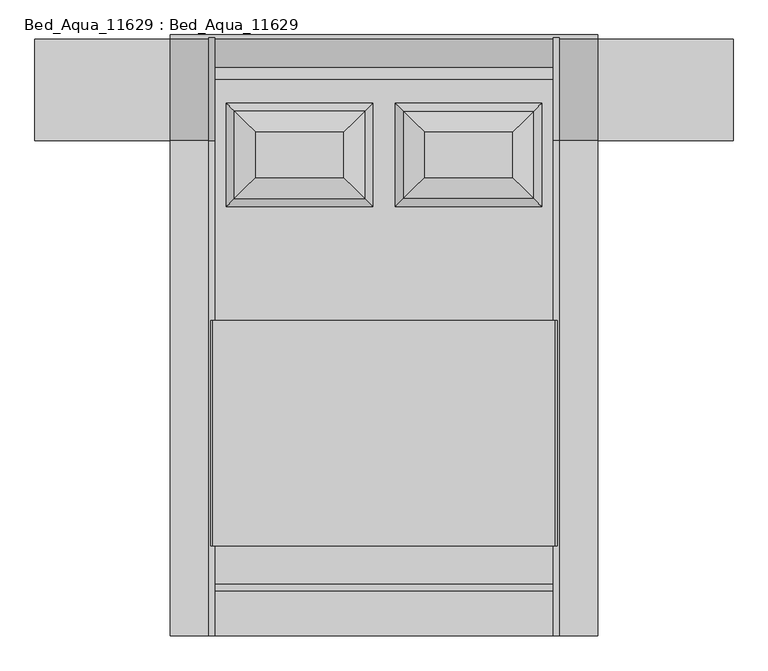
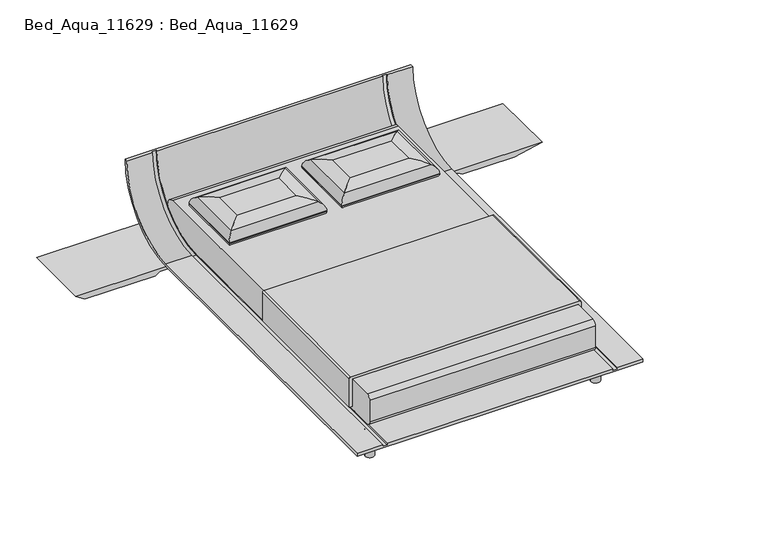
"""IFC4 building model written with IfcOpenShell, lengths in millimetres: furniture geometry, Bed_Aqua_11629 : Bed_Aqua_11629."""

from ifc_helpers import new_model, si_unit, point, frame, frame_2d, origin, origin_with_axes, place, context, project, spatial, polyline, circle_curve, ellipse_curve, trimmed, segment, composite_curve, outline, extrude, source, transform, mapped, element, save
from ifc_brep_helpers import plane_surface, cylinder_surface, revolved_surface, advanced_brep


def bed_aqua_11629_bed_aqua_11629_56e6aff4(model_context):
    return source(origin(), model_context, "Body", "SolidModel", [
        extrude(outline(composite_curve([segment(trimmed(circle_curve(frame_2d((750.0, 850.0)), 30.0), [point((720.0, 850.0))], [point((780.0, 850.0))], False, "CARTESIAN"), True, "CONTINUOUS"), segment(trimmed(circle_curve(frame_2d((750.0, 850.0)), 30.0), [point((780.0, 850.0))], [point((720.0, 850.0))], False, "CARTESIAN"), True, "CONTINUOUS")], self_intersect=False)), origin_with_axes(), (0.0, 0.0, 1.0), 180.0),
        extrude(outline(composite_curve([segment(trimmed(circle_curve(frame_2d((-750.0, 850.0)), 30.0), [point((-780.0, 850.0))], [point((-720.0, 850.0))], False, "CARTESIAN"), True, "CONTINUOUS"), segment(trimmed(circle_curve(frame_2d((-750.0, 850.0)), 30.0), [point((-720.0, 850.0))], [point((-780.0, 850.0))], False, "CARTESIAN"), True, "CONTINUOUS")], self_intersect=False)), origin_with_axes(), (0.0, 0.0, 1.0), 180.0),
        extrude(outline(polyline([(180.0, 1550.0), (180.0, -1550.0), (140.0, -1490.0), (140.0, -1020.0), (160.0, -990.0), (160.0, 990.0), (140.0, 1020.0), (140.0, 1365.0), (180.0, 1550.0)])), frame((0.0, 1000.0, 0.0), z_axis=(0.0, 1.0, 0.0), x_axis=(0.0, 0.0, 1.0)), (0.0, 0.0, 1.0), 450.0),
        advanced_brep(
        [(680.0, 726.8384414, 410.0), (70.0, 726.8384414, 410.0), (70.0, 1146.8384414, 410.0), (680.0, 1146.8384414, 410.0), (180.0, 836.8384414, 510.0), (570.0, 836.8384414, 510.0), (570.0, 1036.8384414, 510.0), (180.0, 1036.8384414, 510.0), (700.0, 706.8384414, 430.0), (50.0, 706.8384414, 430.0), (700.0, 706.8384414, 435.3479828), (50.0, 706.8384414, 435.3479828), (664.0634616, 742.7749798, 490.3111506), (85.9365384, 742.7749798, 490.3111506), (50.0, 1166.8384414, 430.0), (50.0, 1166.8384414, 435.3479828), (85.9365384, 1130.901903, 490.3111506), (700.0, 1166.8384414, 430.0), (700.0, 1166.8384414, 435.3479828), (664.0634616, 1130.901903, 490.3111506)],
        [
            (0, 1),
            (1, 2),
            (2, 3),
            (3, 0),
            (4, 5),
            (5, 6),
            (6, 7),
            (7, 4),
            (8, 9),
            (9, 1, ellipse_curve(frame((70.0, 726.8384414, 430.0), z_axis=(0.7071067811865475, -0.7071067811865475, 0.0), x_axis=(-0.7071067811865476, -0.7071067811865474, 0.0)), 28.2842712, 20.0)),
            (0, 8, ellipse_curve(frame((680.0, 726.8384414, 430.0), z_axis=(-0.7071067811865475, -0.7071067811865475, 0.0), x_axis=(-0.7071067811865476, 0.7071067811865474, 0.0)), 28.2842712, 20.0)),
            (8, 10),
            (10, 11),
            (11, 9),
            (10, 12, ellipse_curve(frame((640.0, 766.8384414, 435.3479828), z_axis=(-0.7071067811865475, -0.7071067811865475, 0.0), x_axis=(-0.7071067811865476, 0.7071067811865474, 0.0)), 84.8528137, 60.0)),
            (12, 13),
            (13, 11, ellipse_curve(frame((110.0, 766.8384414, 435.3479828), z_axis=(0.7071067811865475, -0.7071067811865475, 0.0), x_axis=(-0.7071067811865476, -0.7071067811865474, 0.0)), 84.8528137, 60.0)),
            (12, 5, ellipse_curve(frame((570.0, 836.8384414, 275.4615207), z_axis=(-0.7071067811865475, -0.7071067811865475, 0.0), x_axis=(-0.7071067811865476, 0.7071067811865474, 0.0)), 331.6874983, 234.5384793)),
            (4, 13, ellipse_curve(frame((180.0, 836.8384414, 275.4615207), z_axis=(0.7071067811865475, -0.7071067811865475, 0.0), x_axis=(-0.7071067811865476, -0.7071067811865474, 0.0)), 331.6874983, 234.5384793)),
            (9, 14),
            (14, 2, ellipse_curve(frame((70.0, 1146.8384414, 430.0), z_axis=(-0.7071067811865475, -0.7071067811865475, 0.0), x_axis=(-0.7071067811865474, 0.7071067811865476, 0.0)), 28.2842712, 20.0)),
            (11, 15),
            (15, 14),
            (13, 16),
            (16, 15, ellipse_curve(frame((110.0, 1106.8384414, 435.3479828), z_axis=(-0.7071067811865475, -0.7071067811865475, 0.0), x_axis=(-0.7071067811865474, 0.7071067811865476, 0.0)), 84.8528137, 60.0)),
            (7, 16, ellipse_curve(frame((180.0, 1036.8384414, 275.4615207), z_axis=(-0.7071067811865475, -0.7071067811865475, 0.0), x_axis=(-0.7071067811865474, 0.7071067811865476, 0.0)), 331.6874983, 234.5384793)),
            (14, 17),
            (17, 3, ellipse_curve(frame((680.0, 1146.8384414, 430.0), z_axis=(-0.7071067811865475, 0.7071067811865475, 0.0), x_axis=(0.7071067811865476, 0.7071067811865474, 0.0)), 28.2842712, 20.0)),
            (15, 18),
            (18, 17),
            (16, 19),
            (19, 18, ellipse_curve(frame((640.0, 1106.8384414, 435.3479828), z_axis=(-0.7071067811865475, 0.7071067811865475, 0.0), x_axis=(0.7071067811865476, 0.7071067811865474, 0.0)), 84.8528137, 60.0)),
            (6, 19, ellipse_curve(frame((570.0, 1036.8384414, 275.4615207), z_axis=(-0.7071067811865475, 0.7071067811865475, 0.0), x_axis=(0.7071067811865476, 0.7071067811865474, 0.0)), 331.6874983, 234.5384793)),
            (17, 8),
            (18, 10),
            (19, 12),
        ],
        [
            plane_surface(frame((720.0, 686.8384414, 410.0), z_axis=(0.0, 0.0, -1.0), x_axis=(-1.0, 0.0, 0.0))),
            plane_surface(frame((720.0, 1186.8384414, 510.0), z_axis=(0.0, 0.0, 1.0), x_axis=(-1.0, 0.0, 0.0))),
            cylinder_surface(frame((720.0, 726.8384414, 430.0), z_axis=(-1.0, 0.0, 0.0), x_axis=(0.0, -1.0, 0.0)), 20.0),
            plane_surface(frame((700.0, 706.8384414, 430.0), z_axis=(0.0, -1.0, 0.0), x_axis=(-1.0, 0.0, 0.0))),
            cylinder_surface(frame((720.0, 766.8384414, 435.3479828), z_axis=(-1.0, 0.0, 0.0), x_axis=(0.0, -1.0, 0.0)), 60.0),
            cylinder_surface(frame((720.0, 836.8384414, 275.4615207), z_axis=(-1.0, 0.0, 0.0), x_axis=(0.0, -1.0, 0.0)), 234.5384793),
            cylinder_surface(frame((70.0, 686.8384414, 430.0), z_axis=(0.0, 1.0, 0.0), x_axis=(-1.0, 0.0, 0.0)), 20.0),
            plane_surface(frame((50.0, 706.8384414, 430.0), z_axis=(-1.0, 0.0, 0.0), x_axis=(0.0, 1.0, 0.0))),
            cylinder_surface(frame((110.0, 686.8384414, 435.3479828), z_axis=(0.0, 1.0, 0.0), x_axis=(-1.0, 0.0, 0.0)), 60.0),
            cylinder_surface(frame((180.0, 686.8384414, 275.4615207), z_axis=(0.0, 1.0, 0.0), x_axis=(-1.0, 0.0, 0.0)), 234.5384793),
            cylinder_surface(frame((30.0, 1146.8384414, 430.0), z_axis=(1.0, 0.0, 0.0), x_axis=(0.0, 1.0, 0.0)), 20.0),
            plane_surface(frame((50.0, 1166.8384414, 430.0), z_axis=(0.0, 1.0, 0.0), x_axis=(1.0, 0.0, 0.0))),
            cylinder_surface(frame((30.0, 1106.8384414, 435.3479828), z_axis=(1.0, 0.0, 0.0), x_axis=(0.0, 1.0, 0.0)), 60.0),
            cylinder_surface(frame((30.0, 1036.8384414, 275.4615207), z_axis=(1.0, 0.0, 0.0), x_axis=(0.0, 1.0, 0.0)), 234.5384793),
            cylinder_surface(frame((680.0, 1186.8384414, 430.0), z_axis=(0.0, -1.0, 0.0), x_axis=(1.0, 0.0, 0.0)), 20.0),
            plane_surface(frame((700.0, 1166.8384414, 430.0), z_axis=(1.0, 0.0, 0.0), x_axis=(0.0, -1.0, 0.0))),
            cylinder_surface(frame((640.0, 1186.8384414, 435.3479828), z_axis=(0.0, -1.0, 0.0), x_axis=(1.0, 0.0, 0.0)), 60.0),
            cylinder_surface(frame((570.0, 1186.8384414, 275.4615207), z_axis=(0.0, -1.0, 0.0), x_axis=(1.0, 0.0, 0.0)), 234.5384793),
        ],
        [
            (0, [[1, 2, 3, 4]]),
            (1, [[5, 6, 7, 8]]),
            (2, [[9, 10, -1, 11]]),
            (3, [[-9, 12, 13, 14]]),
            (4, [[-13, 15, 16, 17]]),
            (5, [[-16, 18, -5, 19]]),
            (6, [[-10, 20, 21, -2]]),
            (7, [[-14, 22, 23, -20]]),
            (8, [[-17, 24, 25, -22]]),
            (9, [[-19, -8, 26, -24]]),
            (10, [[-21, 27, 28, -3]]),
            (11, [[-23, 29, 30, -27]]),
            (12, [[-25, 31, 32, -29]]),
            (13, [[-26, -7, 33, -31]]),
            (14, [[-11, -4, -28, 34]]),
            (15, [[-12, -34, -30, 35]]),
            (16, [[-15, -35, -32, 36]]),
            (17, [[-18, -36, -33, -6]]),
        ],
    ),
        extrude(outline(composite_curve([segment(trimmed(circle_curve(frame_2d((1271.1088342, 357.4773785)), 52.5226215), [point((1271.1088342, 410.0))], [point((1296.5252874, 311.514027))], False, "CARTESIAN"), True, "CONTINUOUS"), segment(trimmed(circle_curve(frame_2d((1000.0, 650.0)), 450.0), [point((1296.5252874, 311.514027))], [point((1000.0, 200.0))], False, "CARTESIAN"), True, "CONTINUOUS"), segment(polyline([(1000.0, 200.0), (-970.0, 200.0)]), True, "CONTINUOUS"), segment(trimmed(circle_curve(frame_2d((-970.0, 230.0)), 30.0), [point((-970.0, 200.0))], [point((-1000.0, 230.0))], False, "CARTESIAN"), True, "CONTINUOUS"), segment(polyline([(-1000.0, 230.0), (-1000.0, 380.0)]), True, "CONTINUOUS"), segment(trimmed(circle_curve(frame_2d((-970.0, 380.0)), 30.0), [point((-1000.0, 380.0))], [point((-970.0, 410.0))], False, "CARTESIAN"), True, "CONTINUOUS"), segment(polyline([(-970.0, 410.0), (1271.1088342, 410.0)]), True, "CONTINUOUS")], self_intersect=False)), frame((-750.0, 0.0, 0.0), z_axis=(1.0, 0.0, 0.0), x_axis=(0.0, 1.0, 0.0)), (0.0, 0.0, 1.0), 1500.0),
        advanced_brep(
        [(-70.0, 726.8384414, 410.0), (-680.0, 726.8384414, 410.0), (-680.0, 1146.8384414, 410.0), (-70.0, 1146.8384414, 410.0), (-570.0, 836.8384414, 510.0), (-180.0, 836.8384414, 510.0), (-180.0, 1036.8384414, 510.0), (-570.0, 1036.8384414, 510.0), (-50.0, 706.8384414, 430.0), (-700.0, 706.8384414, 430.0), (-664.0634616, 742.7749798, 490.3111506), (-85.9365384, 742.7749798, 490.3111506), (-700.0, 1166.8384414, 430.0), (-664.0634616, 1130.901903, 490.3111506), (-50.0, 1166.8384414, 430.0), (-85.9365384, 1130.901903, 490.3111506), (-50.0, 706.8384414, 435.3479828), (-700.0, 706.8384414, 435.3479828), (-700.0, 1166.8384414, 435.3479828), (-50.0, 1166.8384414, 435.3479828)],
        [
            (0, 1),
            (1, 2),
            (2, 3),
            (3, 0),
            (4, 5),
            (5, 6),
            (6, 7),
            (7, 4),
            (8, 9),
            (9, 1, ellipse_curve(frame((-680.0, 726.8384414, 430.0), z_axis=(0.7071067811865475, -0.7071067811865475, 0.0), x_axis=(-0.7071067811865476, -0.7071067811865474, 0.0)), 28.2842712, 20.0)),
            (0, 8, ellipse_curve(frame((-70.0, 726.8384414, 430.0), z_axis=(-0.7071067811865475, -0.7071067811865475, 0.0), x_axis=(-0.7071067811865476, 0.7071067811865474, 0.0)), 28.2842712, 20.0)),
            (4, 10, ellipse_curve(frame((-570.0, 836.8384414, 275.4615207), z_axis=(0.7071067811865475, -0.7071067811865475, 0.0), x_axis=(-0.7071067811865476, -0.7071067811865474, 0.0)), 331.6874983, 234.5384793)),
            (10, 11),
            (11, 5, ellipse_curve(frame((-180.0, 836.8384414, 275.4615207), z_axis=(-0.7071067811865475, -0.7071067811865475, 0.0), x_axis=(-0.7071067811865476, 0.7071067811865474, 0.0)), 331.6874983, 234.5384793)),
            (9, 12),
            (12, 2, ellipse_curve(frame((-680.0, 1146.8384414, 430.0), z_axis=(-0.7071067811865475, -0.7071067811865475, 0.0), x_axis=(-0.7071067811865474, 0.7071067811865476, 0.0)), 28.2842712, 20.0)),
            (7, 13, ellipse_curve(frame((-570.0, 1036.8384414, 275.4615207), z_axis=(-0.7071067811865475, -0.7071067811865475, 0.0), x_axis=(-0.7071067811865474, 0.7071067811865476, 0.0)), 331.6874983, 234.5384793)),
            (13, 10),
            (12, 14),
            (14, 3, ellipse_curve(frame((-70.0, 1146.8384414, 430.0), z_axis=(-0.7071067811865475, 0.7071067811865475, 0.0), x_axis=(0.7071067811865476, 0.7071067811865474, 0.0)), 28.2842712, 20.0)),
            (6, 15, ellipse_curve(frame((-180.0, 1036.8384414, 275.4615207), z_axis=(-0.7071067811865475, 0.7071067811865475, 0.0), x_axis=(0.7071067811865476, 0.7071067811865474, 0.0)), 331.6874983, 234.5384793)),
            (15, 13),
            (14, 8),
            (11, 15),
            (8, 16),
            (16, 17),
            (17, 9),
            (10, 17, ellipse_curve(frame((-640.0, 766.8384414, 435.3479828), z_axis=(0.7071067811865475, -0.7071067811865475, 0.0), x_axis=(-0.7071067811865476, -0.7071067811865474, 0.0)), 84.8528137, 60.0)),
            (16, 11, ellipse_curve(frame((-110.0, 766.8384414, 435.3479828), z_axis=(-0.7071067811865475, -0.7071067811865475, 0.0), x_axis=(-0.7071067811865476, 0.7071067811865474, 0.0)), 84.8528137, 60.0)),
            (17, 18),
            (18, 12),
            (13, 18, ellipse_curve(frame((-640.0, 1106.8384414, 435.3479828), z_axis=(-0.7071067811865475, -0.7071067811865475, 0.0), x_axis=(-0.7071067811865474, 0.7071067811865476, 0.0)), 84.8528137, 60.0)),
            (18, 19),
            (19, 14),
            (15, 19, ellipse_curve(frame((-110.0, 1106.8384414, 435.3479828), z_axis=(-0.7071067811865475, 0.7071067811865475, 0.0), x_axis=(0.7071067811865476, 0.7071067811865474, 0.0)), 84.8528137, 60.0)),
            (19, 16),
        ],
        [
            plane_surface(frame((-30.0, 686.8384414, 410.0), z_axis=(0.0, 0.0, -1.0), x_axis=(-1.0, 0.0, 0.0))),
            plane_surface(frame((-30.0, 1186.8384414, 510.0), z_axis=(0.0, 0.0, 1.0), x_axis=(-1.0, 0.0, 0.0))),
            cylinder_surface(frame((-30.0, 726.8384414, 430.0), z_axis=(-1.0, 0.0, 0.0), x_axis=(0.0, -1.0, 0.0)), 20.0),
            cylinder_surface(frame((-30.0, 836.8384414, 275.4615207), z_axis=(-1.0, 0.0, 0.0), x_axis=(0.0, -1.0, 0.0)), 234.5384793),
            cylinder_surface(frame((-680.0, 686.8384414, 430.0), z_axis=(0.0, 1.0, 0.0), x_axis=(-1.0, 0.0, 0.0)), 20.0),
            cylinder_surface(frame((-570.0, 686.8384414, 275.4615207), z_axis=(0.0, 1.0, 0.0), x_axis=(-1.0, 0.0, 0.0)), 234.5384793),
            cylinder_surface(frame((-720.0, 1146.8384414, 430.0), z_axis=(1.0, 0.0, 0.0), x_axis=(0.0, 1.0, 0.0)), 20.0),
            cylinder_surface(frame((-720.0, 1036.8384414, 275.4615207), z_axis=(1.0, 0.0, 0.0), x_axis=(0.0, 1.0, 0.0)), 234.5384793),
            cylinder_surface(frame((-70.0, 1186.8384414, 430.0), z_axis=(0.0, -1.0, 0.0), x_axis=(1.0, 0.0, 0.0)), 20.0),
            cylinder_surface(frame((-180.0, 1186.8384414, 275.4615207), z_axis=(0.0, -1.0, 0.0), x_axis=(1.0, 0.0, 0.0)), 234.5384793),
            plane_surface(frame((-50.0, 706.8384414, 430.0), z_axis=(0.0, -1.0, 0.0), x_axis=(-1.0, 0.0, 0.0))),
            cylinder_surface(frame((-30.0, 766.8384414, 435.3479828), z_axis=(-1.0, 0.0, 0.0), x_axis=(0.0, -1.0, 0.0)), 60.0),
            plane_surface(frame((-700.0, 706.8384414, 430.0), z_axis=(-1.0, 0.0, 0.0), x_axis=(0.0, 1.0, 0.0))),
            cylinder_surface(frame((-640.0, 686.8384414, 435.3479828), z_axis=(0.0, 1.0, 0.0), x_axis=(-1.0, 0.0, 0.0)), 60.0),
            plane_surface(frame((-700.0, 1166.8384414, 430.0), z_axis=(0.0, 1.0, 0.0), x_axis=(1.0, 0.0, 0.0))),
            cylinder_surface(frame((-720.0, 1106.8384414, 435.3479828), z_axis=(1.0, 0.0, 0.0), x_axis=(0.0, 1.0, 0.0)), 60.0),
            plane_surface(frame((-50.0, 1166.8384414, 430.0), z_axis=(1.0, 0.0, 0.0), x_axis=(0.0, -1.0, 0.0))),
            cylinder_surface(frame((-110.0, 1186.8384414, 435.3479828), z_axis=(0.0, -1.0, 0.0), x_axis=(1.0, 0.0, 0.0)), 60.0),
        ],
        [
            (0, [[1, 2, 3, 4]]),
            (1, [[5, 6, 7, 8]]),
            (2, [[9, 10, -1, 11]]),
            (3, [[12, 13, 14, -5]]),
            (4, [[-10, 15, 16, -2]]),
            (5, [[-12, -8, 17, 18]]),
            (6, [[-16, 19, 20, -3]]),
            (7, [[-17, -7, 21, 22]]),
            (8, [[-11, -4, -20, 23]]),
            (9, [[-14, 24, -21, -6]]),
            (10, [[-9, 25, 26, 27]]),
            (11, [[-13, 28, -26, 29]]),
            (12, [[-15, -27, 30, 31]]),
            (13, [[-18, 32, -30, -28]]),
            (14, [[-19, -31, 33, 34]]),
            (15, [[-22, 35, -33, -32]]),
            (16, [[-23, -34, 36, -25]]),
            (17, [[-24, -29, -36, -35]]),
        ],
    ),
        extrude(outline(composite_curve([segment(polyline([(410.0, -750.0), (410.0, 750.0), (220.0, 750.0), (220.0, 770.0), (420.0, 770.0)]), True, "CONTINUOUS"), segment(trimmed(circle_curve(frame_2d((420.0, 760.0)), 10.0), [point((420.0, 770.0))], [point((430.0, 760.0))], False, "CARTESIAN"), True, "CONTINUOUS"), segment(polyline([(430.0, 760.0), (430.0, -760.0)]), True, "CONTINUOUS"), segment(trimmed(circle_curve(frame_2d((420.0, -760.0)), 10.0), [point((430.0, -760.0))], [point((420.0, -770.0))], False, "CARTESIAN"), True, "CONTINUOUS"), segment(polyline([(420.0, -770.0), (220.0, -770.0), (220.0, -750.0), (410.0, -750.0)]), True, "CONTINUOUS")], self_intersect=False)), frame((0.0, -800.0, 0.0), z_axis=(0.0, 1.0, 0.0), x_axis=(0.0, 0.0, 1.0)), (0.0, 0.0, 1.0), 1000.0),
        extrude(outline(composite_curve([segment(trimmed(circle_curve(frame_2d((750.0, -1000.0)), 30.0), [point((720.0, -1000.0))], [point((780.0, -1000.0))], False, "CARTESIAN"), True, "CONTINUOUS"), segment(trimmed(circle_curve(frame_2d((750.0, -1000.0)), 30.0), [point((780.0, -1000.0))], [point((720.0, -1000.0))], False, "CARTESIAN"), True, "CONTINUOUS")], self_intersect=False)), origin_with_axes(), (0.0, 0.0, 1.0), 180.0),
        extrude(outline(composite_curve([segment(trimmed(circle_curve(frame_2d((-750.0, -1000.0)), 30.0), [point((-780.0, -1000.0))], [point((-720.0, -1000.0))], False, "CARTESIAN"), True, "CONTINUOUS"), segment(trimmed(circle_curve(frame_2d((-750.0, -1000.0)), 30.0), [point((-720.0, -1000.0))], [point((-780.0, -1000.0))], False, "CARTESIAN"), True, "CONTINUOUS")], self_intersect=False)), origin_with_axes(), (0.0, 0.0, 1.0), 180.0),
        advanced_brep(
        [(950.0, 1000.0, 200.0), (950.0, -1200.0, 200.0), (950.0, -1200.0, 180.0), (950.0, 1000.0, 180.0), (950.0, 1470.0, 650.0), (950.0, 1450.0, 650.0), (-950.0, 1000.0, 200.0), (-950.0, 1450.0, 650.0), (-950.0, 1470.0, 650.0), (-950.0, 1000.0, 180.0), (-950.0, -1200.0, 180.0), (-950.0, -1200.0, 200.0), (780.0, 1000.0, 200.0), (780.0, -1200.0, 200.0), (-780.0, -1200.0, 200.0), (-780.0, 1000.0, 200.0), (-750.0, 1000.0, 200.0), (-750.0, -1200.0, 200.0), (750.0, -1200.0, 200.0), (750.0, 1000.0, 200.0), (780.0, -1200.0, 190.0), (750.0, -1200.0, 190.0), (-750.0, -1200.0, 190.0), (-780.0, -1200.0, 190.0), (-780.0, 1450.0, 650.0), (-780.0, 1460.0, 650.0), (-750.0, 1460.0, 650.0), (-750.0, 1450.0, 650.0), (750.0, 1450.0, 650.0), (750.0, 1460.0, 650.0), (780.0, 1460.0, 650.0), (780.0, 1450.0, 650.0), (-750.0, 1000.0, 190.0), (-780.0, 1000.0, 190.0), (750.0, 1000.0, 190.0), (780.0, 1000.0, 190.0)],
        [
            (0, 1),
            (1, 2),
            (2, 3),
            (3, 4, circle_curve(frame((950.0, 1000.0, 650.0), z_axis=(1.0, 0.0, 0.0), x_axis=(0.0, 1.0, 0.0)), 470.0)),
            (4, 5),
            (5, 0, circle_curve(frame((950.0, 1000.0, 650.0), z_axis=(-1.0, 0.0, 0.0), x_axis=(0.0, 1.0, 0.0)), 450.0)),
            (6, 7, circle_curve(frame((-950.0, 1000.0, 650.0), z_axis=(1.0, 0.0, 0.0), x_axis=(0.0, 1.0, 0.0)), 450.0)),
            (7, 8),
            (8, 9, circle_curve(frame((-950.0, 1000.0, 650.0), z_axis=(-1.0, 0.0, 0.0), x_axis=(0.0, 1.0, 0.0)), 470.0)),
            (9, 10),
            (10, 11),
            (11, 6),
            (0, 12),
            (12, 13),
            (13, 1),
            (11, 14),
            (14, 15),
            (15, 6),
            (16, 17),
            (17, 18),
            (18, 19),
            (19, 16),
            (13, 20),
            (20, 21),
            (21, 18),
            (17, 22),
            (22, 23),
            (23, 14),
            (10, 2),
            (9, 3),
            (8, 4),
            (7, 24),
            (24, 25),
            (25, 26),
            (26, 27),
            (27, 28),
            (28, 29),
            (29, 30),
            (30, 31),
            (31, 5),
            (31, 12, circle_curve(frame((780.0, 1000.0, 650.0), z_axis=(-1.0, 0.0, 0.0), x_axis=(0.0, 1.0, 0.0)), 450.0)),
            (15, 24, circle_curve(frame((-780.0, 1000.0, 650.0), z_axis=(1.0, 0.0, 0.0), x_axis=(0.0, 1.0, 0.0)), 450.0)),
            (27, 16, circle_curve(frame((-750.0, 1000.0, 650.0), z_axis=(-1.0, 0.0, 0.0), x_axis=(0.0, 1.0, 0.0)), 450.0)),
            (19, 28, circle_curve(frame((750.0, 1000.0, 650.0), z_axis=(1.0, 0.0, 0.0), x_axis=(0.0, 1.0, 0.0)), 450.0)),
            (26, 32, circle_curve(frame((-750.0, 1000.0, 650.0), z_axis=(-1.0, 0.0, 0.0), x_axis=(0.0, 1.0, 0.0)), 460.0)),
            (32, 22),
            (25, 33, circle_curve(frame((-780.0, 1000.0, 650.0), z_axis=(-1.0, 0.0, 0.0), x_axis=(0.0, 1.0, 0.0)), 460.0)),
            (33, 32),
            (23, 33),
            (34, 29, circle_curve(frame((750.0, 1000.0, 650.0), z_axis=(1.0, 0.0, 0.0), x_axis=(0.0, 0.0, -1.0)), 460.0)),
            (21, 34),
            (35, 34),
            (20, 35),
            (30, 35, circle_curve(frame((780.0, 1000.0, 650.0), z_axis=(-1.0, 0.0, 0.0), x_axis=(0.0, 0.0, -1.0)), 460.0)),
        ],
        [
            plane_surface(frame((950.0, -1200.0, 200.0), z_axis=(1.0, 0.0, 0.0), x_axis=(0.0, -1.0, 0.0))),
            plane_surface(frame((-950.0, -1200.0, 200.0), z_axis=(-1.0, 0.0, 0.0), x_axis=(0.0, 1.0, 0.0))),
            plane_surface(frame((950.0, 1000.0, 200.0), z_axis=(0.0, 0.0, 1.0), x_axis=(-1.0, 0.0, 0.0))),
            plane_surface(frame((950.0, -1200.0, 200.0), z_axis=(0.0, -1.0, 0.0), x_axis=(-1.0, 0.0, 0.0))),
            plane_surface(frame((950.0, -1200.0, 180.0), z_axis=(0.0, 0.0, -1.0), x_axis=(-1.0, 0.0, 0.0))),
            cylinder_surface(frame((-950.0, 1000.0, 650.0), z_axis=(1.0, 0.0, 0.0), x_axis=(0.0, 1.0, 0.0)), 470.0),
            plane_surface(frame((950.0, 1470.0, 650.0), z_axis=(0.0, 0.0, 1.0), x_axis=(-1.0, 0.0, 0.0))),
            revolved_surface(polyline([(780.0, 1450.0, 650.0), (950.0, 1450.0, 650.0)]), (-950.0, 1000.0, 650.0), (-1.0, 0.0, 0.0)),
            revolved_surface(polyline([(-950.0, 1450.0, 650.0), (-780.0, 1450.0, 650.0)]), (-950.0, 1000.0, 650.0), (-1.0, 0.0, 0.0)),
            revolved_surface(polyline([(-750.0, 1450.0, 650.0), (750.0, 1450.0, 650.0)]), (-950.0, 1000.0, 650.0), (-1.0, 0.0, 0.0)),
            plane_surface(frame((-750.0, 1000.0, 650.0), z_axis=(-1.0, 0.0, 0.0), x_axis=(0.0, 1.0, 0.0))),
            revolved_surface(polyline([(-780.0, 1460.0, 650.0), (-750.0, 1460.0, 650.0)]), (-750.0, 1000.0, 650.0), (-1.0, 0.0, 0.0)),
            plane_surface(frame((-780.0, 1000.0, 650.0), z_axis=(1.0, 0.0, 0.0), x_axis=(0.0, 1.0, 0.0))),
            plane_surface(frame((-750.0, 1000.0, 190.0), z_axis=(0.0, 0.0, 1.0), x_axis=(0.0, -1.0, 0.0))),
            plane_surface(frame((750.0, -1280.0, 200.0), z_axis=(1.0, 0.0, 0.0), x_axis=(0.0, 1.0, 0.0))),
            plane_surface(frame((750.0, -1280.0, 190.0), z_axis=(0.0, 0.0, 1.0), x_axis=(0.0, 1.0, 0.0))),
            plane_surface(frame((780.0, -1280.0, 190.0), z_axis=(-1.0, 0.0, 0.0), x_axis=(0.0, 1.0, 0.0))),
            revolved_surface(polyline([(780.0, 1000.0, 190.0), (750.0, 1000.0, 190.0)]), (750.0, 1000.0, 650.0), (1.0, 0.0, 0.0)),
        ],
        [
            (0, [[1, 2, 3, 4, 5, 6]]),
            (1, [[7, 8, 9, 10, 11, 12]]),
            (2, [[-1, 13, 14, 15]]),
            (2, [[-12, 16, 17, 18]]),
            (2, [[19, 20, 21, 22]]),
            (3, [[-2, -15, 23, 24, 25, -20, 26, 27, 28, -16, -11, 29]]),
            (4, [[-3, -29, -10, 30]]),
            (5, [[-4, -30, -9, 31]]),
            (6, [[-5, -31, -8, 32, 33, 34, 35, 36, 37, 38, 39, 40]]),
            (7, [[-6, -40, 41, -13]]),
            (8, [[-7, -18, 42, -32]]),
            (9, [[43, -22, 44, -36]]),
            (10, [[45, 46, -26, -19, -43, -35]]),
            (11, [[-45, -34, 47, 48]]),
            (12, [[-47, -33, -42, -17, -28, 49]]),
            (13, [[-48, -49, -27, -46]]),
            (14, [[50, -37, -44, -21, -25, 51]]),
            (15, [[52, -51, -24, 53]]),
            (16, [[54, -53, -23, -14, -41, -39]]),
            (17, [[-50, -52, -54, -38]]),
        ],
    ),
    ])


if __name__ == "__main__":
    model = new_model("IFC4")
    model_context = context("Model", 3, world=origin())
    ifc_project = project(units=[si_unit("LENGTHUNIT", "METRE", prefix="MILLI")], contexts=[model_context])
    site = spatial("IfcSite", under=ifc_project)
    building = spatial("IfcBuilding", under=site)
    placement = place(None, origin())
    bed_aqua_11629_bed_aqua_11629_shape = bed_aqua_11629_bed_aqua_11629_56e6aff4(model_context)
    element("IfcFurniture", 1, ObjectType="Bed_Aqua_11629 : Bed_Aqua_11629", at=placement, inside=building, context=model_context, shape_type="MappedRepresentation", body=[
        mapped(bed_aqua_11629_bed_aqua_11629_shape, transform((0.0, 0.0, 0.0), x_axis=(1.0, 0.0, 0.0), y_axis=(0.0, 1.0, 0.0), z_axis=(0.0, 0.0, 1.0))),
    ])
    save(model, "model.ifc")
